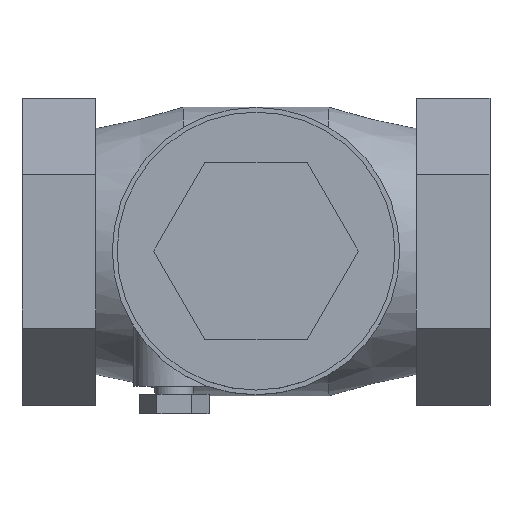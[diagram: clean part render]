
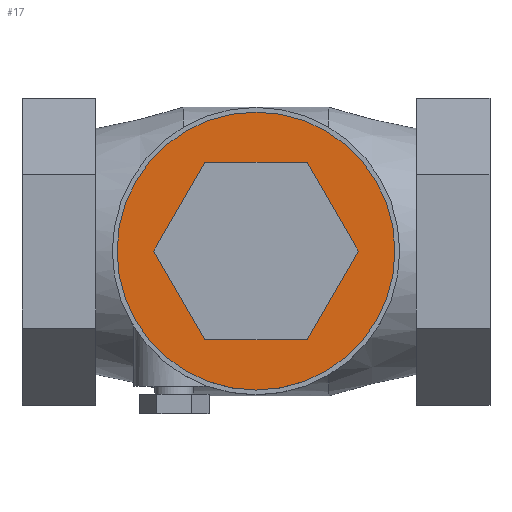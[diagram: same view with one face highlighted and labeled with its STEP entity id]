
A CAD part, top view. The second image highlights one B-rep face of the part: STEP entity #17.
In plain terms, the highlighted planar face has unit normal (0, 0, 1).
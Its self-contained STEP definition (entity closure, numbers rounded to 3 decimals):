
#17 = ADVANCED_FACE('',(#18,#58),#31,.T.);
#18 = FACE_BOUND('',#19,.T.);
#19 = EDGE_LOOP('',(#20));
#20 = ORIENTED_EDGE('',*,*,#21,.F.);
#21 = EDGE_CURVE('',#22,#22,#24,.T.);
#22 = VERTEX_POINT('',#23);
#23 = CARTESIAN_POINT('',(2.168,0.,1.62));
#24 = SURFACE_CURVE('',#25,(#30,#46),.PCURVE_S1.);
#25 = CIRCLE('',#26,0.808);
#26 = AXIS2_PLACEMENT_3D('',#27,#28,#29);
#27 = CARTESIAN_POINT('',(1.36,0.,1.62));
#28 = DIRECTION('',(0.,0.,-1.));
#29 = DIRECTION('',(1.,0.,0.));
#30 = PCURVE('',#31,#36);
#31 = PLANE('',#32);
#32 = AXIS2_PLACEMENT_3D('',#33,#34,#35);
#33 = CARTESIAN_POINT('',(1.36,0.,1.62));
#34 = DIRECTION('',(0.,0.,1.));
#35 = DIRECTION('',(1.,0.,-0.));
#36 = DEFINITIONAL_REPRESENTATION('',(#37),#45);
#37 = ( BOUNDED_CURVE() B_SPLINE_CURVE(2,(#38,#39,#40,#41,#42,#43,#44),
.UNSPECIFIED.,.T.,.F.) B_SPLINE_CURVE_WITH_KNOTS((1,2,2,2,2,1),(
    -2.094,0.,2.094,4.189,6.283,
8.378),.UNSPECIFIED.) CURVE() GEOMETRIC_REPRESENTATION_ITEM() 
RATIONAL_B_SPLINE_CURVE((1.,0.5,1.,0.5,1.,0.5,1.)) REPRESENTATION_ITEM(
  '') );
#38 = CARTESIAN_POINT('',(0.808,0.));
#39 = CARTESIAN_POINT('',(0.808,-1.399));
#40 = CARTESIAN_POINT('',(-0.404,-0.699));
#41 = CARTESIAN_POINT('',(-1.615,0.));
#42 = CARTESIAN_POINT('',(-0.404,0.699));
#43 = CARTESIAN_POINT('',(0.808,1.399));
#44 = CARTESIAN_POINT('',(0.808,0.));
#45 = ( GEOMETRIC_REPRESENTATION_CONTEXT(2) 
PARAMETRIC_REPRESENTATION_CONTEXT() REPRESENTATION_CONTEXT('2D SPACE',''
  ) );
#46 = PCURVE('',#47,#52);
#47 = CYLINDRICAL_SURFACE('',#48,0.808);
#48 = AXIS2_PLACEMENT_3D('',#49,#50,#51);
#49 = CARTESIAN_POINT('',(1.36,0.,1.51));
#50 = DIRECTION('',(0.,0.,1.));
#51 = DIRECTION('',(1.,0.,-0.));
#52 = DEFINITIONAL_REPRESENTATION('',(#53),#57);
#53 = LINE('',#54,#55);
#54 = CARTESIAN_POINT('',(6.283,0.11));
#55 = VECTOR('',#56,1.);
#56 = DIRECTION('',(-1.,0.));
#57 = ( GEOMETRIC_REPRESENTATION_CONTEXT(2) 
PARAMETRIC_REPRESENTATION_CONTEXT() REPRESENTATION_CONTEXT('2D SPACE',''
  ) );
#58 = FACE_BOUND('',#59,.T.);
#59 = EDGE_LOOP('',(#60,#90,#118,#146,#174,#202));
#60 = ORIENTED_EDGE('',*,*,#61,.F.);
#61 = EDGE_CURVE('',#62,#64,#66,.T.);
#62 = VERTEX_POINT('',#63);
#63 = CARTESIAN_POINT('',(1.063,-0.515,1.62));
#64 = VERTEX_POINT('',#65);
#65 = CARTESIAN_POINT('',(1.657,-0.515,1.62));
#66 = SURFACE_CURVE('',#67,(#71,#78),.PCURVE_S1.);
#67 = LINE('',#68,#69);
#68 = CARTESIAN_POINT('',(1.063,-0.515,1.62));
#69 = VECTOR('',#70,1.);
#70 = DIRECTION('',(1.,0.,0.));
#71 = PCURVE('',#31,#72);
#72 = DEFINITIONAL_REPRESENTATION('',(#73),#77);
#73 = LINE('',#74,#75);
#74 = CARTESIAN_POINT('',(-0.297,-0.515));
#75 = VECTOR('',#76,1.);
#76 = DIRECTION('',(1.,0.));
#77 = ( GEOMETRIC_REPRESENTATION_CONTEXT(2) 
PARAMETRIC_REPRESENTATION_CONTEXT() REPRESENTATION_CONTEXT('2D SPACE',''
  ) );
#78 = PCURVE('',#79,#84);
#79 = PLANE('',#80);
#80 = AXIS2_PLACEMENT_3D('',#81,#82,#83);
#81 = CARTESIAN_POINT('',(1.36,-0.515,1.62));
#82 = DIRECTION('',(0.,-1.,0.));
#83 = DIRECTION('',(1.,0.,0.));
#84 = DEFINITIONAL_REPRESENTATION('',(#85),#89);
#85 = LINE('',#86,#87);
#86 = CARTESIAN_POINT('',(-0.297,0.));
#87 = VECTOR('',#88,1.);
#88 = DIRECTION('',(1.,0.));
#89 = ( GEOMETRIC_REPRESENTATION_CONTEXT(2) 
PARAMETRIC_REPRESENTATION_CONTEXT() REPRESENTATION_CONTEXT('2D SPACE',''
  ) );
#90 = ORIENTED_EDGE('',*,*,#91,.F.);
#91 = EDGE_CURVE('',#92,#62,#94,.T.);
#92 = VERTEX_POINT('',#93);
#93 = CARTESIAN_POINT('',(0.765,0.,1.62));
#94 = SURFACE_CURVE('',#95,(#99,#106),.PCURVE_S1.);
#95 = LINE('',#96,#97);
#96 = CARTESIAN_POINT('',(0.765,0.,1.62));
#97 = VECTOR('',#98,1.);
#98 = DIRECTION('',(0.5,-0.866,0.));
#99 = PCURVE('',#31,#100);
#100 = DEFINITIONAL_REPRESENTATION('',(#101),#105);
#101 = LINE('',#102,#103);
#102 = CARTESIAN_POINT('',(-0.595,0.));
#103 = VECTOR('',#104,1.);
#104 = DIRECTION('',(0.5,-0.866));
#105 = ( GEOMETRIC_REPRESENTATION_CONTEXT(2) 
PARAMETRIC_REPRESENTATION_CONTEXT() REPRESENTATION_CONTEXT('2D SPACE',''
  ) );
#106 = PCURVE('',#107,#112);
#107 = PLANE('',#108);
#108 = AXIS2_PLACEMENT_3D('',#109,#110,#111);
#109 = CARTESIAN_POINT('',(0.914,-0.258,1.62));
#110 = DIRECTION('',(-0.866,-0.5,0.));
#111 = DIRECTION('',(0.5,-0.866,0.));
#112 = DEFINITIONAL_REPRESENTATION('',(#113),#117);
#113 = LINE('',#114,#115);
#114 = CARTESIAN_POINT('',(-0.297,0.));
#115 = VECTOR('',#116,1.);
#116 = DIRECTION('',(1.,0.));
#117 = ( GEOMETRIC_REPRESENTATION_CONTEXT(2) 
PARAMETRIC_REPRESENTATION_CONTEXT() REPRESENTATION_CONTEXT('2D SPACE',''
  ) );
#118 = ORIENTED_EDGE('',*,*,#119,.F.);
#119 = EDGE_CURVE('',#120,#92,#122,.T.);
#120 = VERTEX_POINT('',#121);
#121 = CARTESIAN_POINT('',(1.063,0.515,1.62));
#122 = SURFACE_CURVE('',#123,(#127,#134),.PCURVE_S1.);
#123 = LINE('',#124,#125);
#124 = CARTESIAN_POINT('',(1.063,0.515,1.62));
#125 = VECTOR('',#126,1.);
#126 = DIRECTION('',(-0.5,-0.866,0.));
#127 = PCURVE('',#31,#128);
#128 = DEFINITIONAL_REPRESENTATION('',(#129),#133);
#129 = LINE('',#130,#131);
#130 = CARTESIAN_POINT('',(-0.297,0.515));
#131 = VECTOR('',#132,1.);
#132 = DIRECTION('',(-0.5,-0.866));
#133 = ( GEOMETRIC_REPRESENTATION_CONTEXT(2) 
PARAMETRIC_REPRESENTATION_CONTEXT() REPRESENTATION_CONTEXT('2D SPACE',''
  ) );
#134 = PCURVE('',#135,#140);
#135 = PLANE('',#136);
#136 = AXIS2_PLACEMENT_3D('',#137,#138,#139);
#137 = CARTESIAN_POINT('',(0.914,0.258,1.62));
#138 = DIRECTION('',(-0.866,0.5,0.));
#139 = DIRECTION('',(-0.5,-0.866,0.));
#140 = DEFINITIONAL_REPRESENTATION('',(#141),#145);
#141 = LINE('',#142,#143);
#142 = CARTESIAN_POINT('',(-0.297,0.));
#143 = VECTOR('',#144,1.);
#144 = DIRECTION('',(1.,0.));
#145 = ( GEOMETRIC_REPRESENTATION_CONTEXT(2) 
PARAMETRIC_REPRESENTATION_CONTEXT() REPRESENTATION_CONTEXT('2D SPACE',''
  ) );
#146 = ORIENTED_EDGE('',*,*,#147,.F.);
#147 = EDGE_CURVE('',#148,#120,#150,.T.);
#148 = VERTEX_POINT('',#149);
#149 = CARTESIAN_POINT('',(1.657,0.515,1.62));
#150 = SURFACE_CURVE('',#151,(#155,#162),.PCURVE_S1.);
#151 = LINE('',#152,#153);
#152 = CARTESIAN_POINT('',(1.657,0.515,1.62));
#153 = VECTOR('',#154,1.);
#154 = DIRECTION('',(-1.,0.,0.));
#155 = PCURVE('',#31,#156);
#156 = DEFINITIONAL_REPRESENTATION('',(#157),#161);
#157 = LINE('',#158,#159);
#158 = CARTESIAN_POINT('',(0.297,0.515));
#159 = VECTOR('',#160,1.);
#160 = DIRECTION('',(-1.,0.));
#161 = ( GEOMETRIC_REPRESENTATION_CONTEXT(2) 
PARAMETRIC_REPRESENTATION_CONTEXT() REPRESENTATION_CONTEXT('2D SPACE',''
  ) );
#162 = PCURVE('',#163,#168);
#163 = PLANE('',#164);
#164 = AXIS2_PLACEMENT_3D('',#165,#166,#167);
#165 = CARTESIAN_POINT('',(1.36,0.515,1.62));
#166 = DIRECTION('',(0.,1.,0.));
#167 = DIRECTION('',(-1.,0.,0.));
#168 = DEFINITIONAL_REPRESENTATION('',(#169),#173);
#169 = LINE('',#170,#171);
#170 = CARTESIAN_POINT('',(-0.297,0.));
#171 = VECTOR('',#172,1.);
#172 = DIRECTION('',(1.,0.));
#173 = ( GEOMETRIC_REPRESENTATION_CONTEXT(2) 
PARAMETRIC_REPRESENTATION_CONTEXT() REPRESENTATION_CONTEXT('2D SPACE',''
  ) );
#174 = ORIENTED_EDGE('',*,*,#175,.F.);
#175 = EDGE_CURVE('',#176,#148,#178,.T.);
#176 = VERTEX_POINT('',#177);
#177 = CARTESIAN_POINT('',(1.955,0.,1.62));
#178 = SURFACE_CURVE('',#179,(#183,#190),.PCURVE_S1.);
#179 = LINE('',#180,#181);
#180 = CARTESIAN_POINT('',(1.955,0.,1.62));
#181 = VECTOR('',#182,1.);
#182 = DIRECTION('',(-0.5,0.866,0.));
#183 = PCURVE('',#31,#184);
#184 = DEFINITIONAL_REPRESENTATION('',(#185),#189);
#185 = LINE('',#186,#187);
#186 = CARTESIAN_POINT('',(0.595,0.));
#187 = VECTOR('',#188,1.);
#188 = DIRECTION('',(-0.5,0.866));
#189 = ( GEOMETRIC_REPRESENTATION_CONTEXT(2) 
PARAMETRIC_REPRESENTATION_CONTEXT() REPRESENTATION_CONTEXT('2D SPACE',''
  ) );
#190 = PCURVE('',#191,#196);
#191 = PLANE('',#192);
#192 = AXIS2_PLACEMENT_3D('',#193,#194,#195);
#193 = CARTESIAN_POINT('',(1.806,0.258,1.62));
#194 = DIRECTION('',(0.866,0.5,0.));
#195 = DIRECTION('',(-0.5,0.866,0.));
#196 = DEFINITIONAL_REPRESENTATION('',(#197),#201);
#197 = LINE('',#198,#199);
#198 = CARTESIAN_POINT('',(-0.297,0.));
#199 = VECTOR('',#200,1.);
#200 = DIRECTION('',(1.,0.));
#201 = ( GEOMETRIC_REPRESENTATION_CONTEXT(2) 
PARAMETRIC_REPRESENTATION_CONTEXT() REPRESENTATION_CONTEXT('2D SPACE',''
  ) );
#202 = ORIENTED_EDGE('',*,*,#203,.F.);
#203 = EDGE_CURVE('',#64,#176,#204,.T.);
#204 = SURFACE_CURVE('',#205,(#209,#216),.PCURVE_S1.);
#205 = LINE('',#206,#207);
#206 = CARTESIAN_POINT('',(1.657,-0.515,1.62));
#207 = VECTOR('',#208,1.);
#208 = DIRECTION('',(0.5,0.866,0.));
#209 = PCURVE('',#31,#210);
#210 = DEFINITIONAL_REPRESENTATION('',(#211),#215);
#211 = LINE('',#212,#213);
#212 = CARTESIAN_POINT('',(0.297,-0.515));
#213 = VECTOR('',#214,1.);
#214 = DIRECTION('',(0.5,0.866));
#215 = ( GEOMETRIC_REPRESENTATION_CONTEXT(2) 
PARAMETRIC_REPRESENTATION_CONTEXT() REPRESENTATION_CONTEXT('2D SPACE',''
  ) );
#216 = PCURVE('',#217,#222);
#217 = PLANE('',#218);
#218 = AXIS2_PLACEMENT_3D('',#219,#220,#221);
#219 = CARTESIAN_POINT('',(1.806,-0.258,1.62));
#220 = DIRECTION('',(0.866,-0.5,0.));
#221 = DIRECTION('',(0.5,0.866,0.));
#222 = DEFINITIONAL_REPRESENTATION('',(#223),#227);
#223 = LINE('',#224,#225);
#224 = CARTESIAN_POINT('',(-0.297,0.));
#225 = VECTOR('',#226,1.);
#226 = DIRECTION('',(1.,0.));
#227 = ( GEOMETRIC_REPRESENTATION_CONTEXT(2) 
PARAMETRIC_REPRESENTATION_CONTEXT() REPRESENTATION_CONTEXT('2D SPACE',''
  ) );
